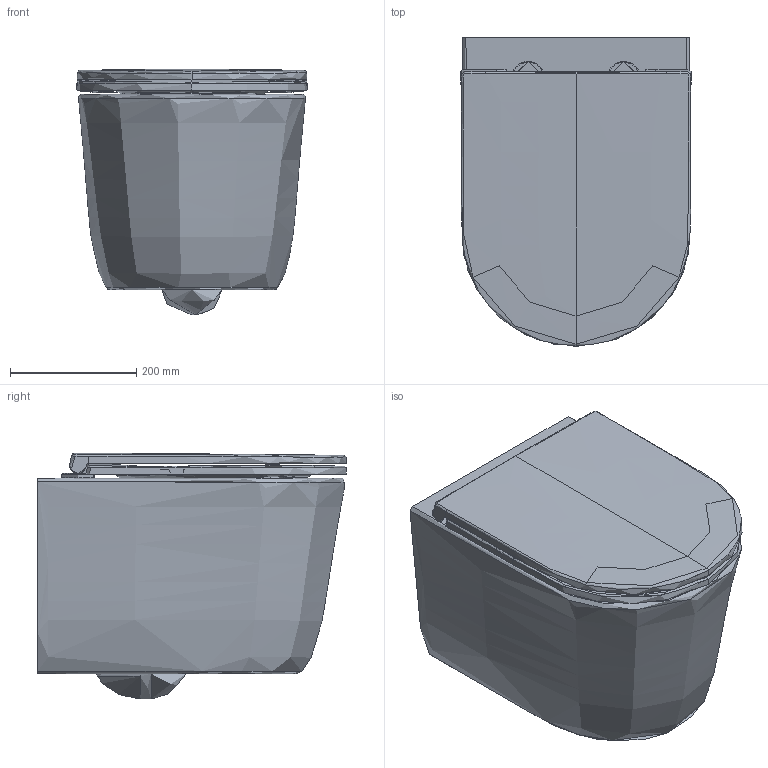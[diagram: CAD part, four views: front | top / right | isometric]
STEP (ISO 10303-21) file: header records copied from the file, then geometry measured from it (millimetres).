
FILE_DESCRIPTION (( 'STEP AP203' ), '1' );
FILE_NAME ('CDJD6ZPW - S.STEP', '2026-04-22T06:28:40', ( '' ), ( '' ), 'SwSTEP 2.0', 'SolidWorks 2018', '' );
FILE_SCHEMA (( 'CONFIG_CONTROL_DESIGN' ));
Products named in the file (1): CDJD6ZPW - S
Bounding box: 365.78 x 490 x 389.64 mm (x, y, z)
Surface area: 1473491.4 mm2 (no closed solid volume)
Topology: 0 solids, 21 shells, 1862 faces, 5239 edges, 3393 vertices
Faces by surface type: cylinder 1054, bspline 501, plane 307
Entity records: 229369 total; most frequent: CARTESIAN_POINT 193885, ORIENTED_EDGE 10393, EDGE_CURVE 5206, B_SPLINE_CURVE_WITH_KNOTS 4414, VERTEX_POINT 3393, DIRECTION 2946, EDGE_LOOP 1917, ADVANCED_FACE 1862
